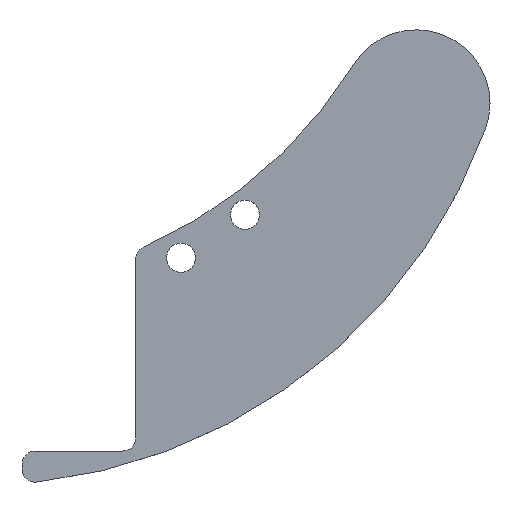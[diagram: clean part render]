
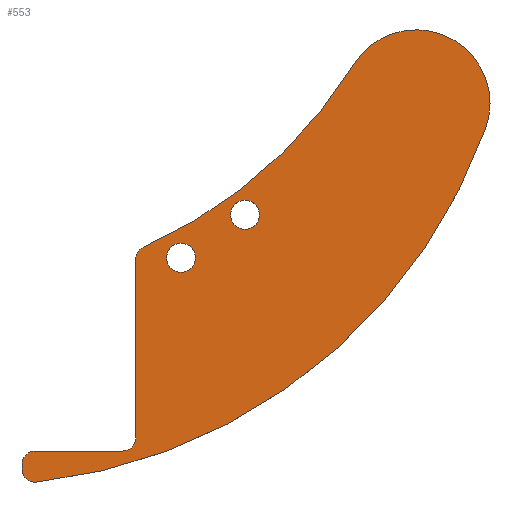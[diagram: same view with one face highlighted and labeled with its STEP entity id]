
A CAD part, top view. The second image highlights one B-rep face of the part: STEP entity #553.
In plain terms, the highlighted planar face has unit normal (0, 0, 1).
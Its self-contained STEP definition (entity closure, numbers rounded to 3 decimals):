
#3 = AXIS2_PLACEMENT_3D ( 'NONE', #349, #31, #170 ) ;
#5 = ORIENTED_EDGE ( 'NONE', *, *, #129, .T. ) ;
#12 = LINE ( 'NONE', #407, #402 ) ;
#14 = CIRCLE ( 'NONE', #3, 260.366 ) ;
#20 = CARTESIAN_POINT ( 'NONE',  ( -30.18, 18.806, 5.994 ) ) ;
#31 = DIRECTION ( 'NONE',  ( 0., 0., 1. ) ) ;
#38 = DIRECTION ( 'NONE',  ( 0., 0., -1. ) ) ;
#41 = CARTESIAN_POINT ( 'NONE',  ( -190.161, -176.302, 5.994 ) ) ;
#48 = CIRCLE ( 'NONE', #93, 6.35 ) ;
#49 = AXIS2_PLACEMENT_3D ( 'NONE', #343, #38, #461 ) ;
#55 = CARTESIAN_POINT ( 'NONE',  ( -128.947, -75.076, 5.994 ) ) ;
#64 = DIRECTION ( 'NONE',  ( 1., 0., 0. ) ) ;
#66 = CIRCLE ( 'NONE', #404, 228.6 ) ;
#74 = VERTEX_POINT ( 'NONE', #89 ) ;
#77 = CARTESIAN_POINT ( 'NONE',  ( -141.647, -167.64, 5.994 ) ) ;
#79 = EDGE_CURVE ( 'NONE', #134, #108, #562, .T. ) ;
#81 = VECTOR ( 'NONE', #490, 1000. ) ;
#89 = CARTESIAN_POINT ( 'NONE',  ( -135.297, -75.076, 5.994 ) ) ;
#93 = AXIS2_PLACEMENT_3D ( 'NONE', #487, #319, #450 ) ;
#99 = EDGE_CURVE ( 'NONE', #502, #451, #184, .T. ) ;
#108 = VERTEX_POINT ( 'NONE', #128 ) ;
#110 = DIRECTION ( 'NONE',  ( 0., 0., 1. ) ) ;
#111 = VERTEX_POINT ( 'NONE', #263 ) ;
#115 = CARTESIAN_POINT ( 'NONE',  ( -190.161, -173.99, 5.994 ) ) ;
#128 = CARTESIAN_POINT ( 'NONE',  ( -183.811, -167.64, 5.994 ) ) ;
#129 = EDGE_CURVE ( 'NONE', #111, #134, #260, .T. ) ;
#134 = VERTEX_POINT ( 'NONE', #77 ) ;
#136 = AXIS2_PLACEMENT_3D ( 'NONE', #409, #536, #273 ) ;
#137 = AXIS2_PLACEMENT_3D ( 'NONE', #55, #549, #530 ) ;
#138 = DIRECTION ( 'NONE',  ( -1., 0., 0. ) ) ;
#140 = EDGE_CURVE ( 'NONE', #552, #373, #484, .T. ) ;
#143 = DIRECTION ( 'NONE',  ( 1., 0., 0. ) ) ;
#150 = CARTESIAN_POINT ( 'NONE',  ( 0., 0., 5.994 ) ) ;
#154 = DIRECTION ( 'NONE',  ( 1., 0., 0. ) ) ;
#169 = EDGE_CURVE ( 'NONE', #373, #384, #14, .T. ) ;
#170 = DIRECTION ( 'NONE',  ( 1., 0., 0. ) ) ;
#183 = CIRCLE ( 'NONE', #299, 35.56 ) ;
#184 = CIRCLE ( 'NONE', #224, 7. ) ;
#187 = CARTESIAN_POINT ( 'NONE',  ( -75.597, -53.698, 5.994 ) ) ;
#193 = CARTESIAN_POINT ( 'NONE',  ( -82.597, -53.698, 5.994 ) ) ;
#209 = EDGE_CURVE ( 'NONE', #451, #502, #296, .T. ) ;
#210 = DIRECTION ( 'NONE',  ( 1., 0., 0. ) ) ;
#216 = DIRECTION ( 'NONE',  ( 1., 0., 0. ) ) ;
#222 = EDGE_CURVE ( 'NONE', #108, #327, #48, .T. ) ;
#224 = AXIS2_PLACEMENT_3D ( 'NONE', #396, #466, #216 ) ;
#226 = ORIENTED_EDGE ( 'NONE', *, *, #259, .F. ) ;
#229 = CARTESIAN_POINT ( 'NONE',  ( -131.522, -69.272, 5.994 ) ) ;
#233 = VERTEX_POINT ( 'NONE', #229 ) ;
#241 = ORIENTED_EDGE ( 'NONE', *, *, #275, .T. ) ;
#242 = VERTEX_POINT ( 'NONE', #187 ) ;
#243 = LINE ( 'NONE', #321, #81 ) ;
#246 = ORIENTED_EDGE ( 'NONE', *, *, #209, .F. ) ;
#249 = CIRCLE ( 'NONE', #137, 6.35 ) ;
#250 = CIRCLE ( 'NONE', #524, 7. ) ;
#252 = FACE_OUTER_BOUND ( 'NONE', #478, .T. ) ;
#259 = EDGE_CURVE ( 'NONE', #242, #506, #365, .T. ) ;
#260 = CIRCLE ( 'NONE', #425, 6.35 ) ;
#263 = CARTESIAN_POINT ( 'NONE',  ( -135.297, -161.29, 5.994 ) ) ;
#267 = AXIS2_PLACEMENT_3D ( 'NONE', #344, #390, #210 ) ;
#273 = DIRECTION ( 'NONE',  ( 1., 0., 0. ) ) ;
#275 = EDGE_CURVE ( 'NONE', #327, #552, #12, .T. ) ;
#276 = CARTESIAN_POINT ( 'NONE',  ( -120.473, -74.428, 5.994 ) ) ;
#280 = DIRECTION ( 'NONE',  ( 1., 0., 0. ) ) ;
#288 = ORIENTED_EDGE ( 'NONE', *, *, #400, .F. ) ;
#293 = ORIENTED_EDGE ( 'NONE', *, *, #140, .T. ) ;
#294 = PLANE ( 'NONE',  #49 ) ;
#296 = CIRCLE ( 'NONE', #136, 7. ) ;
#299 = AXIS2_PLACEMENT_3D ( 'NONE', #150, #325, #280 ) ;
#303 = DIRECTION ( 'NONE',  ( 0., 0., -1. ) ) ;
#314 = ORIENTED_EDGE ( 'NONE', *, *, #169, .T. ) ;
#319 = DIRECTION ( 'NONE',  ( 0., 0., 1. ) ) ;
#321 = CARTESIAN_POINT ( 'NONE',  ( -135.297, -75.076, 5.994 ) ) ;
#324 = ORIENTED_EDGE ( 'NONE', *, *, #444, .T. ) ;
#325 = DIRECTION ( 'NONE',  ( 0., 0., 1. ) ) ;
#327 = VERTEX_POINT ( 'NONE', #115 ) ;
#331 = ORIENTED_EDGE ( 'NONE', *, *, #99, .F. ) ;
#340 = CARTESIAN_POINT ( 'NONE',  ( 33.455, -12.053, 5.994 ) ) ;
#343 = CARTESIAN_POINT ( 'NONE',  ( -128.947, -75.076, 5.994 ) ) ;
#344 = CARTESIAN_POINT ( 'NONE',  ( -183.811, -176.302, 5.994 ) ) ;
#349 = CARTESIAN_POINT ( 'NONE',  ( -211.497, 76.2, 5.994 ) ) ;
#355 = CARTESIAN_POINT ( 'NONE',  ( -141.647, -161.29, 5.994 ) ) ;
#358 = ORIENTED_EDGE ( 'NONE', *, *, #477, .T. ) ;
#365 = CIRCLE ( 'NONE', #496, 7. ) ;
#370 = EDGE_LOOP ( 'NONE', ( #246, #331 ) ) ;
#371 = CARTESIAN_POINT ( 'NONE',  ( -106.473, -74.428, 5.994 ) ) ;
#373 = VERTEX_POINT ( 'NONE', #406 ) ;
#374 = EDGE_CURVE ( 'NONE', #233, #74, #249, .T. ) ;
#375 = EDGE_LOOP ( 'NONE', ( #226, #288 ) ) ;
#376 = DIRECTION ( 'NONE',  ( 0., 0., 1. ) ) ;
#383 = ORIENTED_EDGE ( 'NONE', *, *, #516, .T. ) ;
#384 = VERTEX_POINT ( 'NONE', #340 ) ;
#388 = FACE_BOUND ( 'NONE', #370, .T. ) ;
#390 = DIRECTION ( 'NONE',  ( 0., 0., 1. ) ) ;
#392 = FACE_BOUND ( 'NONE', #375, .T. ) ;
#396 = CARTESIAN_POINT ( 'NONE',  ( -113.473, -74.428, 5.994 ) ) ;
#400 = EDGE_CURVE ( 'NONE', #506, #242, #250, .T. ) ;
#402 = VECTOR ( 'NONE', #446, 1000. ) ;
#404 = AXIS2_PLACEMENT_3D ( 'NONE', #499, #449, #154 ) ;
#406 = CARTESIAN_POINT ( 'NONE',  ( -183.119, -182.614, 5.994 ) ) ;
#407 = CARTESIAN_POINT ( 'NONE',  ( -190.161, -173.99, 5.994 ) ) ;
#409 = CARTESIAN_POINT ( 'NONE',  ( -113.473, -74.428, 5.994 ) ) ;
#416 = VERTEX_POINT ( 'NONE', #20 ) ;
#419 = CARTESIAN_POINT ( 'NONE',  ( -82.597, -53.698, 5.994 ) ) ;
#425 = AXIS2_PLACEMENT_3D ( 'NONE', #355, #303, #138 ) ;
#431 = DIRECTION ( 'NONE',  ( -1., 0., 0. ) ) ;
#437 = CARTESIAN_POINT ( 'NONE',  ( -141.647, -167.64, 5.994 ) ) ;
#438 = ORIENTED_EDGE ( 'NONE', *, *, #374, .T. ) ;
#444 = EDGE_CURVE ( 'NONE', #74, #111, #243, .T. ) ;
#446 = DIRECTION ( 'NONE',  ( 0., -1., 0. ) ) ;
#449 = DIRECTION ( 'NONE',  ( 0., 0., -1. ) ) ;
#450 = DIRECTION ( 'NONE',  ( 1., 0., 0. ) ) ;
#451 = VERTEX_POINT ( 'NONE', #371 ) ;
#456 = ORIENTED_EDGE ( 'NONE', *, *, #79, .T. ) ;
#461 = DIRECTION ( 'NONE',  ( -1., 0., 0. ) ) ;
#466 = DIRECTION ( 'NONE',  ( 0., 0., 1. ) ) ;
#477 = EDGE_CURVE ( 'NONE', #416, #233, #66, .T. ) ;
#478 = EDGE_LOOP ( 'NONE', ( #438, #324, #5, #456, #526, #241, #293, #314, #383, #358 ) ) ;
#484 = CIRCLE ( 'NONE', #267, 6.35 ) ;
#487 = CARTESIAN_POINT ( 'NONE',  ( -183.811, -173.99, 5.994 ) ) ;
#490 = DIRECTION ( 'NONE',  ( 0., -1., 0. ) ) ;
#496 = AXIS2_PLACEMENT_3D ( 'NONE', #419, #110, #64 ) ;
#499 = CARTESIAN_POINT ( 'NONE',  ( -224.197, 139.7, 5.994 ) ) ;
#502 = VERTEX_POINT ( 'NONE', #276 ) ;
#506 = VERTEX_POINT ( 'NONE', #535 ) ;
#516 = EDGE_CURVE ( 'NONE', #384, #416, #183, .T. ) ;
#524 = AXIS2_PLACEMENT_3D ( 'NONE', #193, #376, #143 ) ;
#526 = ORIENTED_EDGE ( 'NONE', *, *, #222, .T. ) ;
#527 = VECTOR ( 'NONE', #431, 1000. ) ;
#530 = DIRECTION ( 'NONE',  ( -1., 0., 0. ) ) ;
#535 = CARTESIAN_POINT ( 'NONE',  ( -89.597, -53.698, 5.994 ) ) ;
#536 = DIRECTION ( 'NONE',  ( 0., 0., 1. ) ) ;
#549 = DIRECTION ( 'NONE',  ( 0., 0., 1. ) ) ;
#552 = VERTEX_POINT ( 'NONE', #41 ) ;
#553 = ADVANCED_FACE ( 'NONE', ( #388, #392, #252 ), #294, .F. ) ;
#562 = LINE ( 'NONE', #437, #527 ) ;
